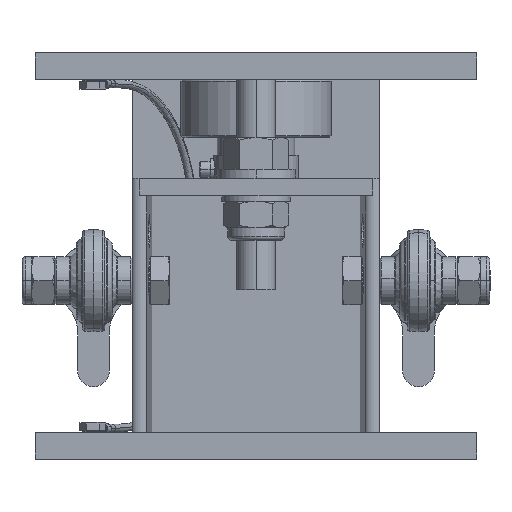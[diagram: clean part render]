
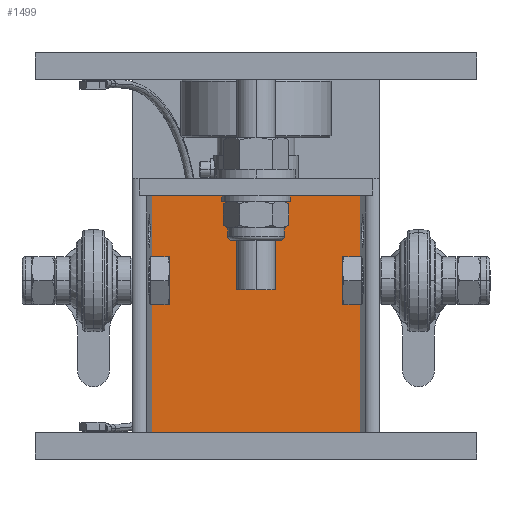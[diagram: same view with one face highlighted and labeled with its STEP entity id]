
A CAD part, left-side view. The second image highlights one B-rep face of the part: STEP entity #1499.
In plain terms, the highlighted planar face has unit normal (-1, 0, 0).
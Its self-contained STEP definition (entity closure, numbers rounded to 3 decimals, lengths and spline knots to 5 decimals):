
#1499=ADVANCED_FACE('46:1841',(#2508),#2509,.T.);
#2508=FACE_OUTER_BOUND('',#4289,.T.);
#2509=PLANE('',#4290);
#4289=EDGE_LOOP('',(#13207,#13208,#13209,#13210));
#4290=AXIS2_PLACEMENT_3D('',#13211,#13212,#13213);
#13207=ORIENTED_EDGE('',*,*,#19054,.F.);
#13208=ORIENTED_EDGE('',*,*,#19040,.F.);
#13209=ORIENTED_EDGE('',*,*,#19055,.F.);
#13210=ORIENTED_EDGE('',*,*,#19034,.T.);
#13211=CARTESIAN_POINT('',(-0.157,0.00152,0.015));
#13212=DIRECTION('',(-1.0,0.,0.));
#13213=DIRECTION('',(0.,-1.0,0.0));
#19034=EDGE_CURVE('46:1892',#21103,#21100,#21104,.T.);
#19040=EDGE_CURVE('46:1901',#21113,#21109,#21115,.F.);
#19054=EDGE_CURVE('51:83',#21109,#21100,#21137,.T.);
#19055=EDGE_CURVE('46:1904',#21103,#21113,#21138,.T.);
#21100=VERTEX_POINT('',#24285);
#21103=VERTEX_POINT('',#24289);
#21104=LINE('',#24290,#24291);
#21109=VERTEX_POINT('',#24298);
#21113=VERTEX_POINT('',#24304);
#21115=LINE('',#24307,#24308);
#21137=LINE('',#24337,#24338);
#21138=LINE('',#24339,#24340);
#24285=CARTESIAN_POINT('',(-0.157,-0.059,0.149));
#24289=CARTESIAN_POINT('',(-0.157,-0.059,0.015));
#24290=CARTESIAN_POINT('',(-0.157,-0.059,0.015));
#24291=VECTOR('',#30255,1.0);
#24298=CARTESIAN_POINT('',(-0.157,0.05904,0.149));
#24304=CARTESIAN_POINT('',(-0.157,0.05904,0.015));
#24307=CARTESIAN_POINT('',(-0.157,0.05904,0.015));
#24308=VECTOR('',#30261,1.0);
#24337=CARTESIAN_POINT('',(-0.157,0.00076,0.149));
#24338=VECTOR('',#30287,1.0);
#24339=CARTESIAN_POINT('',(-0.157,0.00076,0.015));
#24340=VECTOR('',#30288,1.0);
#30255=DIRECTION('',(0.,0.,1.0));
#30261=DIRECTION('',(0.,0.,-1.0));
#30287=DIRECTION('',(0.,-1.0,0.));
#30288=DIRECTION('',(0.,1.0,0.0));
